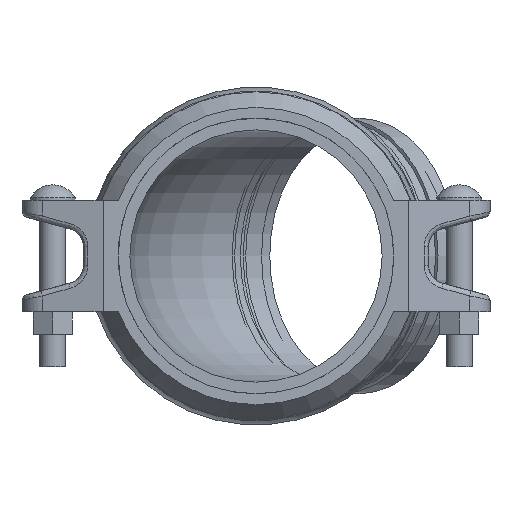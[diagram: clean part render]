
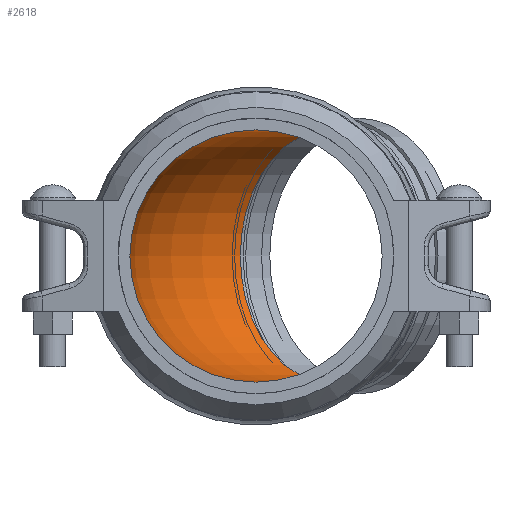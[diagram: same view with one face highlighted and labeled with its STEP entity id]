
A CAD part, left-side view. The second image highlights one B-rep face of the part: STEP entity #2618.
In plain terms, the highlighted toroidal (fillet/blend) face has major radius 153.303 mm and minor radius 77.025 mm.
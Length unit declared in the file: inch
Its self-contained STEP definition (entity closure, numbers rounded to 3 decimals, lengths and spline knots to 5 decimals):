
#114=TOROIDAL_SURFACE('',#2880,6.03553,3.0325);
#553=FACE_OUTER_BOUND('',#706,.T.);
#706=EDGE_LOOP('',(#1674,#1675,#1676,#1677,#1678,#1679));
#889=CIRCLE('',#2881,3.0325);
#890=CIRCLE('',#2882,3.0325);
#891=CIRCLE('',#2883,3.00303);
#892=CIRCLE('',#2884,3.0325);
#893=CIRCLE('',#2885,3.0325);
#1035=VERTEX_POINT('',#4044);
#1036=VERTEX_POINT('',#4045);
#1037=VERTEX_POINT('',#4048);
#1038=VERTEX_POINT('',#4050);
#1289=EDGE_CURVE('',#1035,#1036,#889,.T.);
#1290=EDGE_CURVE('',#1036,#1035,#890,.T.);
#1291=EDGE_CURVE('',#1035,#1037,#891,.T.);
#1292=EDGE_CURVE('',#1037,#1038,#892,.T.);
#1293=EDGE_CURVE('',#1038,#1037,#893,.T.);
#1674=ORIENTED_EDGE('',*,*,#1289,.T.);
#1675=ORIENTED_EDGE('',*,*,#1290,.T.);
#1676=ORIENTED_EDGE('',*,*,#1291,.T.);
#1677=ORIENTED_EDGE('',*,*,#1292,.T.);
#1678=ORIENTED_EDGE('',*,*,#1293,.T.);
#1679=ORIENTED_EDGE('',*,*,#1291,.F.);
#2618=ADVANCED_FACE('',(#553),#114,.F.);
#2880=AXIS2_PLACEMENT_3D('',#4043,#3230,#3231);
#2881=AXIS2_PLACEMENT_3D('',#4046,#3232,#3233);
#2882=AXIS2_PLACEMENT_3D('',#4047,#3234,#3235);
#2883=AXIS2_PLACEMENT_3D('',#4049,#3236,#3237);
#2884=AXIS2_PLACEMENT_3D('',#4051,#3238,#3239);
#2885=AXIS2_PLACEMENT_3D('',#4052,#3240,#3241);
#3230=DIRECTION('center_axis',(0.,0.,-1.));
#3231=DIRECTION('ref_axis',(-1.,0.,0.));
#3232=DIRECTION('center_axis',(0.,-1.,0.));
#3233=DIRECTION('ref_axis',(1.,0.,0.));
#3234=DIRECTION('center_axis',(0.,-1.,0.));
#3235=DIRECTION('ref_axis',(1.,0.,0.));
#3236=DIRECTION('center_axis',(0.,0.,-1.));
#3237=DIRECTION('ref_axis',(-1.,0.,0.));
#3238=DIRECTION('center_axis',(0.707,0.707,0.));
#3239=DIRECTION('ref_axis',(0.707,-0.707,0.));
#3240=DIRECTION('center_axis',(0.707,0.707,0.));
#3241=DIRECTION('ref_axis',(0.707,-0.707,0.));
#4043=CARTESIAN_POINT('Origin',(6.03553,1.,0.));
#4044=CARTESIAN_POINT('',(3.0325,1.,0.));
#4045=CARTESIAN_POINT('',(-3.0325,1.,0.));
#4046=CARTESIAN_POINT('Origin',(0.,1.,0.));
#4047=CARTESIAN_POINT('Origin',(0.,1.,0.));
#4048=CARTESIAN_POINT('',(3.91207,3.12347,0.));
#4049=CARTESIAN_POINT('Origin',(6.03553,1.,0.));
#4050=CARTESIAN_POINT('',(-0.37653,7.41207,0.));
#4051=CARTESIAN_POINT('Origin',(1.76777,5.26777,0.));
#4052=CARTESIAN_POINT('Origin',(1.76777,5.26777,0.));
